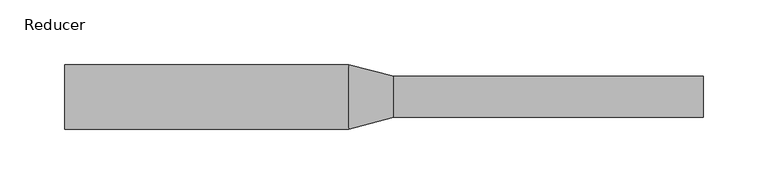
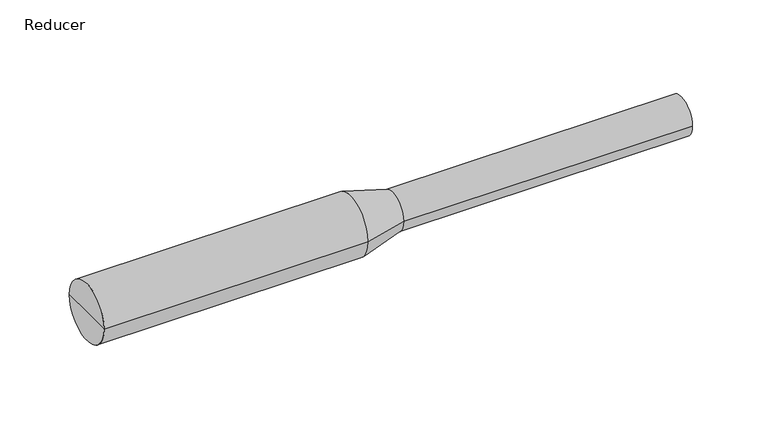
"""IFC4 building model written with IfcOpenShell, lengths in millimetres: pipe fitting geometry, Plumbing-Pipe-Fittings_Pexgol_Reducer : Reducer."""

from ifc_helpers import new_model, si_unit, frame, origin, place, context, project, spatial, polyline, circle_curve, source, transform, mapped, element, save
from ifc_brep_helpers import plane_surface, cylinder_surface, revolved_surface, advanced_brep


def reducer_a0e9fbda(model_context):
    return source(origin(), model_context, "Body", "AdvancedBrep", [
        advanced_brep(
        [(257.5, -16.0, 0.0), (257.5, 16.0, 0.0), (257.5, 0.0, 0.0), (17.5, -16.0, 0.0), (17.5, 16.0, 0.0), (-17.5, -25.0, 0.0), (-17.5, 25.0, 0.0), (-237.5, -25.0, 0.0), (-237.5, 25.0, 0.0), (-237.5, 0.0, 0.0)],
        [
            (0, 1, circle_curve(frame((257.5, 0.0, 0.0), z_axis=(1.0, 0.0, 0.0), x_axis=(0.0, 1.0, 0.0)), 16.0)),
            (1, 2),
            (2, 0),
            (1, 0, circle_curve(frame((257.5, 0.0, 0.0), z_axis=(1.0, 0.0, 0.0), x_axis=(0.0, 1.0, 0.0)), 16.0)),
            (3, 4, circle_curve(frame((17.5, 0.0, 0.0), z_axis=(1.0, 0.0, 0.0), x_axis=(0.0, 1.0, 0.0)), 16.0)),
            (4, 1),
            (0, 3),
            (4, 3, circle_curve(frame((17.5, 0.0, 0.0), z_axis=(1.0, 0.0, 0.0), x_axis=(0.0, 1.0, 0.0)), 16.0)),
            (5, 6, circle_curve(frame((-17.5, 0.0, 0.0), z_axis=(1.0, 0.0, 0.0), x_axis=(0.0, 1.0, 0.0)), 25.0)),
            (6, 4),
            (3, 5),
            (6, 5, circle_curve(frame((-17.5, 0.0, 0.0), z_axis=(1.0, 0.0, 0.0), x_axis=(0.0, 1.0, 0.0)), 25.0)),
            (7, 8, circle_curve(frame((-237.5, 0.0, 0.0), z_axis=(1.0, 0.0, 0.0), x_axis=(0.0, 1.0, 0.0)), 25.0)),
            (8, 6),
            (5, 7),
            (8, 7, circle_curve(frame((-237.5, 0.0, 0.0), z_axis=(1.0, 0.0, 0.0), x_axis=(0.0, 1.0, 0.0)), 25.0)),
            (9, 8),
            (7, 9),
        ],
        [
            plane_surface(frame((257.5, 0.0, 0.0), z_axis=(1.0, 0.0, 0.0), x_axis=(0.0, 1.0, 0.0))),
            cylinder_surface(frame((2134.462963, 0.0, 0.0), z_axis=(-1.0, 0.0, 0.0), x_axis=(0.0, 1.0, 0.0)), 16.0),
            revolved_surface(polyline([(17.5, 16.0, 0.0), (-17.5, 25.0, 0.0)]), (2134.462963, 0.0, 0.0), (-1.0, 0.0, 0.0)),
            cylinder_surface(frame((2134.462963, 0.0, 0.0), z_axis=(-1.0, 0.0, 0.0), x_axis=(0.0, 1.0, 0.0)), 25.0),
            plane_surface(frame((-237.5, 0.0, 0.0), z_axis=(-1.0, 0.0, 0.0), x_axis=(0.0, 1.0, 0.0))),
        ],
        [
            (0, [[1, 2, 3]]),
            (0, [[4, -3, -2]]),
            (1, [[5, 6, -1, 7]]),
            (1, [[8, -7, -4, -6]]),
            (2, [[9, 10, -5, 11]]),
            (2, [[12, -11, -8, -10]]),
            (3, [[13, 14, -9, 15]]),
            (3, [[16, -15, -12, -14]]),
            (4, [[17, -13, 18]]),
            (4, [[-18, -16, -17]]),
        ],
    ),
    ])


if __name__ == "__main__":
    model = new_model("IFC4")
    model_context = context("Model", 3, world=origin())
    ifc_project = project(units=[si_unit("LENGTHUNIT", "METRE", prefix="MILLI")], contexts=[model_context])
    site = spatial("IfcSite", under=ifc_project)
    building = spatial("IfcBuilding", under=site)
    placement = place(None, origin())
    reducer_shape = reducer_a0e9fbda(model_context)
    element("IfcPipeFitting", 1, ObjectType="Plumbing-Pipe-Fittings_Pexgol_Reducer : Reducer", at=placement, inside=building, context=model_context, shape_type="MappedRepresentation", body=[
        mapped(reducer_shape, transform((0.0, 0.0, 0.0), x_axis=(1.0, 0.0, 0.0), y_axis=(0.0, 1.0, 0.0), z_axis=(0.0, 0.0, 1.0))),
    ])
    save(model, "model.ifc")
